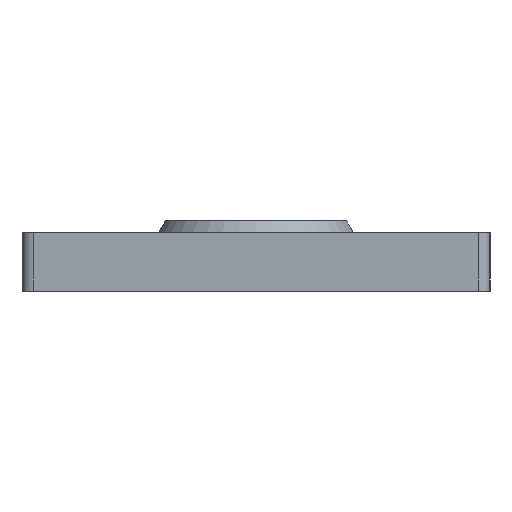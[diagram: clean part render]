
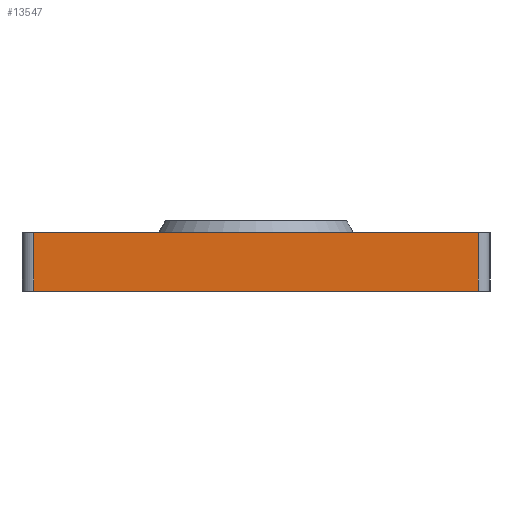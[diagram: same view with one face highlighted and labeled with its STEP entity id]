
A CAD part, front view. The second image highlights one B-rep face of the part: STEP entity #13547.
In plain terms, the highlighted planar face has unit normal (0, -1, 0).
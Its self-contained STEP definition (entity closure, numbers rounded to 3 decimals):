
#203 = EDGE_LOOP ( 'NONE', ( #1889, #12896, #10367, #9432 ) ) ;
#526 = VERTEX_POINT ( 'NONE', #2809 ) ;
#549 = EDGE_CURVE ( 'NONE', #15131, #1426, #5438, .T. ) ;
#863 = VERTEX_POINT ( 'NONE', #4010 ) ;
#1043 = DIRECTION ( 'NONE',  ( 0., -1., 0. ) ) ;
#1215 = DIRECTION ( 'NONE',  ( 1., 0., 0. ) ) ;
#1426 = VERTEX_POINT ( 'NONE', #9986 ) ;
#1889 = ORIENTED_EDGE ( 'NONE', *, *, #16050, .F. ) ;
#2457 = CARTESIAN_POINT ( 'NONE',  ( -30., -70., -4. ) ) ;
#2809 = CARTESIAN_POINT ( 'NONE',  ( 28.5, -70., 3.5 ) ) ;
#3148 = CARTESIAN_POINT ( 'NONE',  ( 28.5, -70., -4. ) ) ;
#3767 = FACE_OUTER_BOUND ( 'NONE', #203, .T. ) ;
#3883 = CARTESIAN_POINT ( 'NONE',  ( -28.5, -70., -4. ) ) ;
#4010 = CARTESIAN_POINT ( 'NONE',  ( 28.5, -70., -4. ) ) ;
#4507 = DIRECTION ( 'NONE',  ( 1., 0., 0. ) ) ;
#5232 = PLANE ( 'NONE',  #10380 ) ;
#5438 = LINE ( 'NONE', #3883, #6406 ) ;
#5952 = LINE ( 'NONE', #3148, #9734 ) ;
#6092 = VECTOR ( 'NONE', #1215, 1000. ) ;
#6406 = VECTOR ( 'NONE', #9130, 1000. ) ;
#6998 = EDGE_CURVE ( 'NONE', #1426, #863, #14236, .T. ) ;
#7632 = CARTESIAN_POINT ( 'NONE',  ( -30., -70., -4. ) ) ;
#8606 = EDGE_CURVE ( 'NONE', #863, #526, #5952, .T. ) ;
#9130 = DIRECTION ( 'NONE',  ( 0., 0., -1. ) ) ;
#9387 = CARTESIAN_POINT ( 'NONE',  ( -28.5, -70., 3.5 ) ) ;
#9432 = ORIENTED_EDGE ( 'NONE', *, *, #8606, .T. ) ;
#9734 = VECTOR ( 'NONE', #11145, 1000. ) ;
#9986 = CARTESIAN_POINT ( 'NONE',  ( -28.5, -70., -4. ) ) ;
#10367 = ORIENTED_EDGE ( 'NONE', *, *, #6998, .T. ) ;
#10380 = AXIS2_PLACEMENT_3D ( 'NONE', #7632, #1043, #15705 ) ;
#11145 = DIRECTION ( 'NONE',  ( 0., 0., 1. ) ) ;
#12311 = CARTESIAN_POINT ( 'NONE',  ( -30., -70., 3.5 ) ) ;
#12896 = ORIENTED_EDGE ( 'NONE', *, *, #549, .T. ) ;
#13317 = VECTOR ( 'NONE', #4507, 1000. ) ;
#13547 = ADVANCED_FACE ( 'NONE', ( #3767 ), #5232, .T. ) ;
#14236 = LINE ( 'NONE', #2457, #6092 ) ;
#15131 = VERTEX_POINT ( 'NONE', #9387 ) ;
#15705 = DIRECTION ( 'NONE',  ( 0., 0., -1. ) ) ;
#16050 = EDGE_CURVE ( 'NONE', #15131, #526, #16350, .T. ) ;
#16350 = LINE ( 'NONE', #12311, #13317 ) ;
